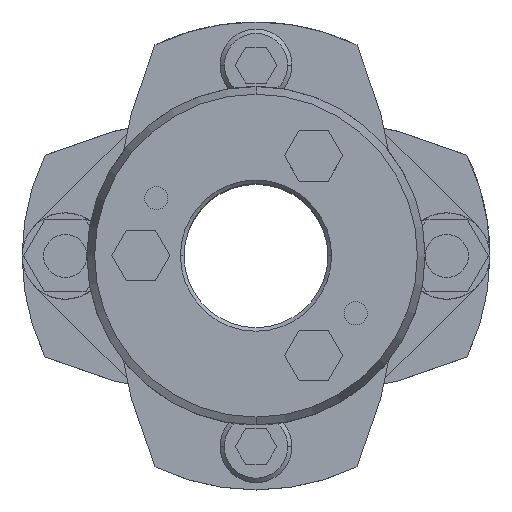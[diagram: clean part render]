
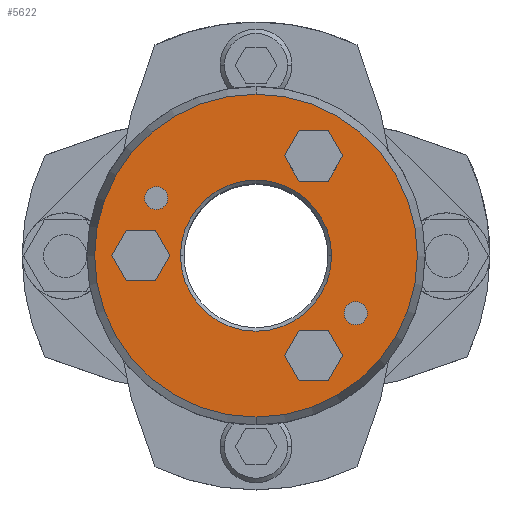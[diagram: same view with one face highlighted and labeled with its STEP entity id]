
A CAD part, top view. The second image highlights one B-rep face of the part: STEP entity #5622.
In plain terms, the highlighted planar face has unit normal (0, 0, 1).
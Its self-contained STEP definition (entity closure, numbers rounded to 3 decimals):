
#814=CARTESIAN_POINT('',(0.,-22.428,30.75));
#815=VERTEX_POINT('',#814);
#824=CARTESIAN_POINT('',(0.0,22.428,30.75));
#825=VERTEX_POINT('',#824);
#826=CARTESIAN_POINT('',(0.0,0.,30.75));
#827=DIRECTION('',(0.0,0.0,-1.0));
#828=DIRECTION('',(0.0,-1.0,0.0));
#829=AXIS2_PLACEMENT_3D('',#826,#827,#828);
#830=CIRCLE('',#829,22.428);
#831=EDGE_CURVE('',#815,#825,#830,.T.);
#858=CARTESIAN_POINT('',(-10.5,0.,30.75));
#859=VERTEX_POINT('',#858);
#875=CARTESIAN_POINT('',(10.5,0.,30.75));
#876=VERTEX_POINT('',#875);
#883=CARTESIAN_POINT('',(0.,0.,30.75));
#884=DIRECTION('',(0.0,0.0,1.0));
#885=DIRECTION('',(-1.0,0.0,0.0));
#886=AXIS2_PLACEMENT_3D('',#883,#884,#885);
#887=CIRCLE('',#886,10.5);
#888=EDGE_CURVE('',#876,#859,#887,.T.);
#1296=CARTESIAN_POINT('',(-15.456,8.,30.75));
#1297=VERTEX_POINT('',#1296);
#1313=CARTESIAN_POINT('',(-12.256,8.,30.75));
#1314=VERTEX_POINT('',#1313);
#1321=CARTESIAN_POINT('',(-13.856,8.,30.75));
#1322=DIRECTION('',(0.0,0.0,-1.0));
#1323=DIRECTION('',(-1.0,0.0,0.0));
#1324=AXIS2_PLACEMENT_3D('',#1321,#1322,#1323);
#1325=CIRCLE('',#1324,1.6);
#1326=EDGE_CURVE('',#1297,#1314,#1325,.T.);
#1338=CARTESIAN_POINT('',(12.256,-8.,30.75));
#1339=VERTEX_POINT('',#1338);
#1355=CARTESIAN_POINT('',(15.456,-8.,30.75));
#1356=VERTEX_POINT('',#1355);
#1363=CARTESIAN_POINT('',(13.856,-8.,30.75));
#1364=DIRECTION('',(0.0,0.0,-1.0));
#1365=DIRECTION('',(-1.0,0.0,0.0));
#1366=AXIS2_PLACEMENT_3D('',#1363,#1364,#1365);
#1367=CIRCLE('',#1366,1.6);
#1368=EDGE_CURVE('',#1339,#1356,#1367,.T.);
#3984=CARTESIAN_POINT('',(-20.041,0.,30.75));
#3985=VERTEX_POINT('',#3984);
#3992=CARTESIAN_POINT('',(-18.021,-3.5,30.75));
#3993=VERTEX_POINT('',#3992);
#3994=CARTESIAN_POINT('',(-18.021,-3.5,30.75));
#3995=DIRECTION('',(-0.5,0.866,0.0));
#3996=VECTOR('',#3995,4.041);
#3997=LINE('',#3994,#3996);
#3998=EDGE_CURVE('',#3993,#3985,#3997,.T.);
#4022=CARTESIAN_POINT('',(-18.021,3.5,30.75));
#4023=VERTEX_POINT('',#4022);
#4030=CARTESIAN_POINT('',(-20.041,0.,30.75));
#4031=DIRECTION('',(0.5,0.866,0.0));
#4032=VECTOR('',#4031,4.041);
#4033=LINE('',#4030,#4032);
#4034=EDGE_CURVE('',#3985,#4023,#4033,.T.);
#4053=CARTESIAN_POINT('',(-13.979,3.5,30.75));
#4054=VERTEX_POINT('',#4053);
#4061=CARTESIAN_POINT('',(-18.021,3.5,30.75));
#4062=DIRECTION('',(1.0,0.0,0.0));
#4063=VECTOR('',#4062,4.041);
#4064=LINE('',#4061,#4063);
#4065=EDGE_CURVE('',#4023,#4054,#4064,.T.);
#4084=CARTESIAN_POINT('',(-11.959,0.,30.75));
#4085=VERTEX_POINT('',#4084);
#4092=CARTESIAN_POINT('',(-13.979,3.5,30.75));
#4093=DIRECTION('',(0.5,-0.866,0.0));
#4094=VECTOR('',#4093,4.041);
#4095=LINE('',#4092,#4094);
#4096=EDGE_CURVE('',#4054,#4085,#4095,.T.);
#4115=CARTESIAN_POINT('',(-13.979,-3.5,30.75));
#4116=VERTEX_POINT('',#4115);
#4123=CARTESIAN_POINT('',(-11.959,0.,30.75));
#4124=DIRECTION('',(-0.5,-0.866,0.0));
#4125=VECTOR('',#4124,4.041);
#4126=LINE('',#4123,#4125);
#4127=EDGE_CURVE('',#4085,#4116,#4126,.T.);
#4145=CARTESIAN_POINT('',(-13.979,-3.5,30.75));
#4146=DIRECTION('',(-1.0,0.0,0.0));
#4147=VECTOR('',#4146,4.041);
#4148=LINE('',#4145,#4147);
#4149=EDGE_CURVE('',#4116,#3993,#4148,.T.);
#4184=CARTESIAN_POINT('',(3.959,13.856,30.75));
#4185=VERTEX_POINT('',#4184);
#4192=CARTESIAN_POINT('',(5.979,10.356,30.75));
#4193=VERTEX_POINT('',#4192);
#4194=CARTESIAN_POINT('',(5.979,10.356,30.75));
#4195=DIRECTION('',(-0.5,0.866,0.0));
#4196=VECTOR('',#4195,4.041);
#4197=LINE('',#4194,#4196);
#4198=EDGE_CURVE('',#4193,#4185,#4197,.T.);
#4222=CARTESIAN_POINT('',(5.979,17.356,30.75));
#4223=VERTEX_POINT('',#4222);
#4230=CARTESIAN_POINT('',(3.959,13.856,30.75));
#4231=DIRECTION('',(0.5,0.866,0.0));
#4232=VECTOR('',#4231,4.041);
#4233=LINE('',#4230,#4232);
#4234=EDGE_CURVE('',#4185,#4223,#4233,.T.);
#4253=CARTESIAN_POINT('',(10.021,17.356,30.75));
#4254=VERTEX_POINT('',#4253);
#4261=CARTESIAN_POINT('',(5.979,17.356,30.75));
#4262=DIRECTION('',(1.0,0.0,0.0));
#4263=VECTOR('',#4262,4.041);
#4264=LINE('',#4261,#4263);
#4265=EDGE_CURVE('',#4223,#4254,#4264,.T.);
#4284=CARTESIAN_POINT('',(12.041,13.856,30.75));
#4285=VERTEX_POINT('',#4284);
#4292=CARTESIAN_POINT('',(10.021,17.356,30.75));
#4293=DIRECTION('',(0.5,-0.866,0.0));
#4294=VECTOR('',#4293,4.041);
#4295=LINE('',#4292,#4294);
#4296=EDGE_CURVE('',#4254,#4285,#4295,.T.);
#4315=CARTESIAN_POINT('',(10.021,10.356,30.75));
#4316=VERTEX_POINT('',#4315);
#4323=CARTESIAN_POINT('',(12.041,13.856,30.75));
#4324=DIRECTION('',(-0.5,-0.866,0.0));
#4325=VECTOR('',#4324,4.041);
#4326=LINE('',#4323,#4325);
#4327=EDGE_CURVE('',#4285,#4316,#4326,.T.);
#4345=CARTESIAN_POINT('',(10.021,10.356,30.75));
#4346=DIRECTION('',(-1.0,0.0,0.0));
#4347=VECTOR('',#4346,4.041);
#4348=LINE('',#4345,#4347);
#4349=EDGE_CURVE('',#4316,#4193,#4348,.T.);
#4384=CARTESIAN_POINT('',(3.959,-13.856,30.75));
#4385=VERTEX_POINT('',#4384);
#4392=CARTESIAN_POINT('',(5.979,-17.356,30.75));
#4393=VERTEX_POINT('',#4392);
#4394=CARTESIAN_POINT('',(5.979,-17.356,30.75));
#4395=DIRECTION('',(-0.5,0.866,0.0));
#4396=VECTOR('',#4395,4.041);
#4397=LINE('',#4394,#4396);
#4398=EDGE_CURVE('',#4393,#4385,#4397,.T.);
#4422=CARTESIAN_POINT('',(5.979,-10.356,30.75));
#4423=VERTEX_POINT('',#4422);
#4430=CARTESIAN_POINT('',(3.959,-13.856,30.75));
#4431=DIRECTION('',(0.5,0.866,0.0));
#4432=VECTOR('',#4431,4.041);
#4433=LINE('',#4430,#4432);
#4434=EDGE_CURVE('',#4385,#4423,#4433,.T.);
#4453=CARTESIAN_POINT('',(10.021,-10.356,30.75));
#4454=VERTEX_POINT('',#4453);
#4461=CARTESIAN_POINT('',(5.979,-10.356,30.75));
#4462=DIRECTION('',(1.0,0.0,0.0));
#4463=VECTOR('',#4462,4.041);
#4464=LINE('',#4461,#4463);
#4465=EDGE_CURVE('',#4423,#4454,#4464,.T.);
#4484=CARTESIAN_POINT('',(12.041,-13.856,30.75));
#4485=VERTEX_POINT('',#4484);
#4492=CARTESIAN_POINT('',(10.021,-10.356,30.75));
#4493=DIRECTION('',(0.5,-0.866,0.0));
#4494=VECTOR('',#4493,4.041);
#4495=LINE('',#4492,#4494);
#4496=EDGE_CURVE('',#4454,#4485,#4495,.T.);
#4515=CARTESIAN_POINT('',(10.021,-17.356,30.75));
#4516=VERTEX_POINT('',#4515);
#4523=CARTESIAN_POINT('',(12.041,-13.856,30.75));
#4524=DIRECTION('',(-0.5,-0.866,0.0));
#4525=VECTOR('',#4524,4.041);
#4526=LINE('',#4523,#4525);
#4527=EDGE_CURVE('',#4485,#4516,#4526,.T.);
#4545=CARTESIAN_POINT('',(10.021,-17.356,30.75));
#4546=DIRECTION('',(-1.0,0.0,0.0));
#4547=VECTOR('',#4546,4.041);
#4548=LINE('',#4545,#4547);
#4549=EDGE_CURVE('',#4516,#4393,#4548,.T.);
#4575=CARTESIAN_POINT('',(13.856,-8.,30.75));
#4576=DIRECTION('',(0.0,0.0,-1.0));
#4577=DIRECTION('',(-1.0,0.0,0.0));
#4578=AXIS2_PLACEMENT_3D('',#4575,#4576,#4577);
#4579=CIRCLE('',#4578,1.6);
#4580=EDGE_CURVE('',#1356,#1339,#4579,.T.);
#4609=CARTESIAN_POINT('',(-13.856,8.,30.75));
#4610=DIRECTION('',(0.0,0.0,-1.0));
#4611=DIRECTION('',(-1.0,0.0,0.0));
#4612=AXIS2_PLACEMENT_3D('',#4609,#4610,#4611);
#4613=CIRCLE('',#4612,1.6);
#4614=EDGE_CURVE('',#1314,#1297,#4613,.T.);
#5559=CARTESIAN_POINT('',(0.,0.,30.75));
#5560=DIRECTION('',(0.0,0.0,1.0));
#5561=DIRECTION('',(-1.0,0.0,0.0));
#5562=AXIS2_PLACEMENT_3D('',#5559,#5560,#5561);
#5563=CIRCLE('',#5562,10.5);
#5564=EDGE_CURVE('',#859,#876,#5563,.T.);
#5571=CARTESIAN_POINT('',(0.,-9.964,30.75));
#5572=DIRECTION('',(0.0,0.0,1.0));
#5573=DIRECTION('',(-1.0,0.0,0.0));
#5574=AXIS2_PLACEMENT_3D('',#5571,#5572,#5573);
#5575=PLANE('',#5574);
#5576=ORIENTED_EDGE('',*,*,#831,.F.);
#5577=CARTESIAN_POINT('',(0.0,0.,30.75));
#5578=DIRECTION('',(0.0,0.0,-1.0));
#5579=DIRECTION('',(0.0,-1.0,0.0));
#5580=AXIS2_PLACEMENT_3D('',#5577,#5578,#5579);
#5581=CIRCLE('',#5580,22.428);
#5582=EDGE_CURVE('',#825,#815,#5581,.T.);
#5583=ORIENTED_EDGE('',*,*,#5582,.F.);
#5584=EDGE_LOOP('',(#5576,#5583));
#5585=FACE_OUTER_BOUND('',#5584,.T.);
#5586=ORIENTED_EDGE('',*,*,#3998,.T.);
#5587=ORIENTED_EDGE('',*,*,#4034,.T.);
#5588=ORIENTED_EDGE('',*,*,#4065,.T.);
#5589=ORIENTED_EDGE('',*,*,#4096,.T.);
#5590=ORIENTED_EDGE('',*,*,#4127,.T.);
#5591=ORIENTED_EDGE('',*,*,#4149,.T.);
#5592=EDGE_LOOP('',(#5586,#5587,#5588,#5589,#5590,#5591));
#5593=FACE_BOUND('',#5592,.T.);
#5594=ORIENTED_EDGE('',*,*,#4198,.T.);
#5595=ORIENTED_EDGE('',*,*,#4234,.T.);
#5596=ORIENTED_EDGE('',*,*,#4265,.T.);
#5597=ORIENTED_EDGE('',*,*,#4296,.T.);
#5598=ORIENTED_EDGE('',*,*,#4327,.T.);
#5599=ORIENTED_EDGE('',*,*,#4349,.T.);
#5600=EDGE_LOOP('',(#5594,#5595,#5596,#5597,#5598,#5599));
#5601=FACE_BOUND('',#5600,.T.);
#5602=ORIENTED_EDGE('',*,*,#4398,.T.);
#5603=ORIENTED_EDGE('',*,*,#4434,.T.);
#5604=ORIENTED_EDGE('',*,*,#4465,.T.);
#5605=ORIENTED_EDGE('',*,*,#4496,.T.);
#5606=ORIENTED_EDGE('',*,*,#4527,.T.);
#5607=ORIENTED_EDGE('',*,*,#4549,.T.);
#5608=EDGE_LOOP('',(#5602,#5603,#5604,#5605,#5606,#5607));
#5609=FACE_BOUND('',#5608,.T.);
#5610=ORIENTED_EDGE('',*,*,#1368,.T.);
#5611=ORIENTED_EDGE('',*,*,#4580,.T.);
#5612=EDGE_LOOP('',(#5610,#5611));
#5613=FACE_BOUND('',#5612,.T.);
#5614=ORIENTED_EDGE('',*,*,#1326,.T.);
#5615=ORIENTED_EDGE('',*,*,#4614,.T.);
#5616=EDGE_LOOP('',(#5614,#5615));
#5617=FACE_BOUND('',#5616,.T.);
#5618=ORIENTED_EDGE('',*,*,#888,.F.);
#5619=ORIENTED_EDGE('',*,*,#5564,.F.);
#5620=EDGE_LOOP('',(#5618,#5619));
#5621=FACE_BOUND('',#5620,.T.);
#5622=ADVANCED_FACE('',(#5585,#5593,#5601,#5609,#5613,#5617,#5621),#5575,.T.);
